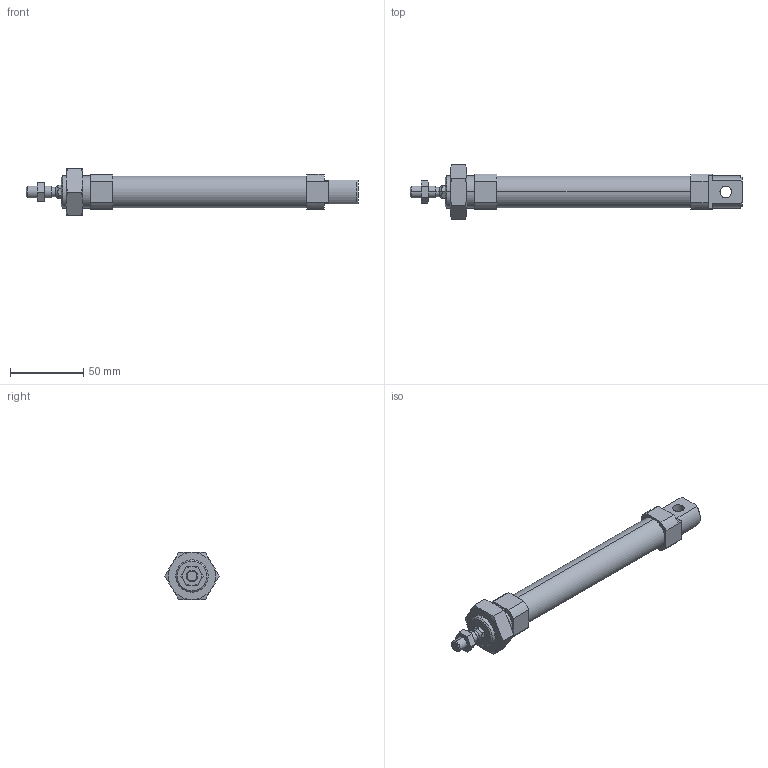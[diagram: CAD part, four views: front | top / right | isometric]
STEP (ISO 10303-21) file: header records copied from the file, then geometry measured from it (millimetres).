
FILE_DESCRIPTION (( 'STEP AP203' ), '1' );
FILE_NAME ('CSMK20-100.STEP', '2020-04-02T10:48:18', ( '' ), ( '' ), 'SwSTEP 2.0', 'SolidWorks 2019', '' );
FILE_SCHEMA (( 'CONFIG_CONTROL_DESIGN' ));
Length unit declared in the file: millimetre
Products named in the file (1): CSMK20-100
Bounding box: 226 x 36.95 x 32 mm (x, y, z)
Volume: 58538.1 mm3; surface area: 33127.4 mm2
Topology: 4 solids, 4 shells, 133 faces, 306 edges, 187 vertices
Faces by surface type: plane 53, cone 48, cylinder 32
Entity records: 4251 total; most frequent: CARTESIAN_POINT 1191, DIRECTION 626, ORIENTED_EDGE 608, EDGE_CURVE 304, AXIS2_PLACEMENT_3D 246, VERTEX_POINT 187, EDGE_LOOP 149, LINE 134
